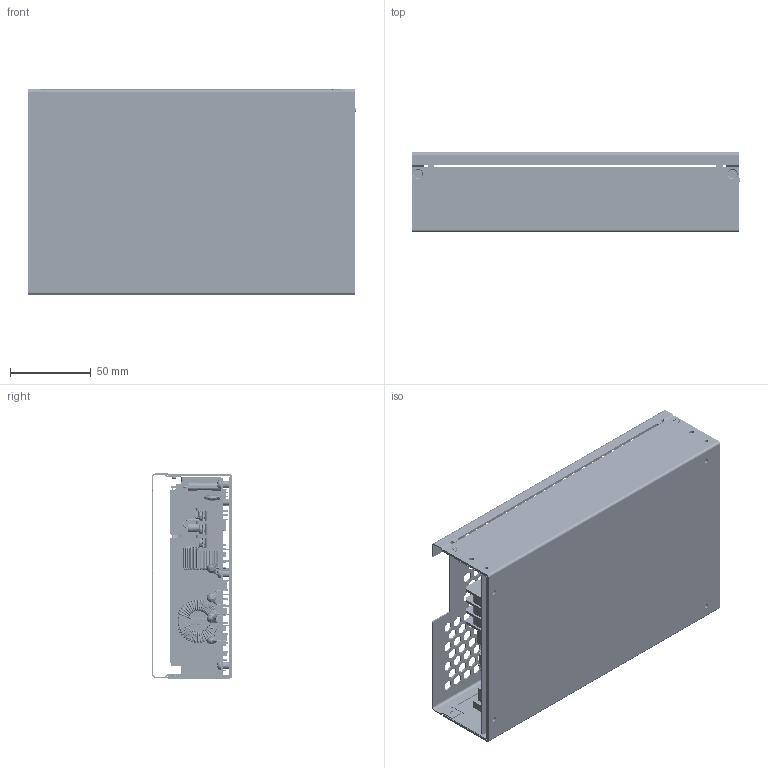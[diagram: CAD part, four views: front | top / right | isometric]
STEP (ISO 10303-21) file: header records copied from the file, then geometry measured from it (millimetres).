
FILE_DESCRIPTION (( 'STEP AP214' ), '1' );
FILE_NAME ('UCH750-C.STEP', '2026-07-28T08:40:34', ( '' ), ( '' ), 'SwSTEP 2.0', 'SolidWorks 2024', '' );
FILE_SCHEMA (( 'AUTOMOTIVE_DESIGN' ));
Length unit declared in the file: millimetre
Products named in the file (58): R53S10-7050; 25x20; 48F11-0003-RT1; 86K139N60W  Q15,16; R89D03-0711; 86K125A60X-2; r53s10-7030 -2; 25170-7310; R36BA36-003  6P; R55MB7-509N; 86K125A60X; 7CD4701011 (6.3x11); Y1 cap; r36ba33002 3P; 25170-7280; 37a03-0010  02; E346160; UCH600 _p_O___X__; UCH750 PCB; r53s10-7070; P820-W; 86K139N60W  Q15,16-0; 25170-7300; I 3x5 ISOTW; 25170-7290; 29720-0190 LED _y; R51F31-1031-F1,2; r53s10-7030 -1; LS1; 85U7X600P1; RV1; UCH750-C 1; r53s10-7030; r56m93-6221; 728370681L 5x11; UCH750 13x30; _p_O; P 3x5 ISOTW (2); R2 FSQM; PCB-2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
Assembly tree (92 placements, depth 4):
  UCH750-C
    UCH750-C 1
      UCH600 _p_O___X__
        _p_O
        R36BA36-003  6P
        830A6069HZ
        r53s10-7070
        728370681L 5x11  x2
        728370681L 680U16v(8x16) CAP
        R55MB7-509N
        r3140107027-3P
        29720-0190 LED _y
        8103112015 LED
        r36ba33002 3P
      37a02-0010
        37a03-0010  02
        37a03-0010 01  x3
      r53s10-7030  x2
        r53s10-7030 -2
        r53s10-7030 -1
      UCH750 PCB
      P820-W  x4
      R9025400010
      20300-2780
      25170-7280
      25170-7300
      25170-7310
      25170-7290
      E346160  x2
      7c9f705612g  30x50
      R89D03-0711
      R53S10-7050
      R55MX3-0321
      r56m93-6221
      R56MM3-2031
      17.5x16-2  x3
      25x20  x2
      UCH750 13x30  x7
      7CD4701011 (6.3x11)  x2
      RV1
      LS1
      R2 FSQM
      86K139N60W  Q15,16
      86K139N60W  Q15,16-0
      85U7X600P1
      85U7X600P1-1
      86K125A60X
      86K125A60X-2
      R51F31-1031-F1,2  x2
      Y1 cap  x4
      PCB-2
      I 3x5 ISOTW  x6
      P2.6x4 ISONI  x2
      48F11-0003-RT1
      R51F68-2022  F1
      P 3x5 ISOTW (2)  x5
      TOP
      F 3x3ISONI  x4
Bounding box: 204.1 x 49.8 x 127.35 mm (x, y, z)
Volume: 397151.1 mm3; surface area: 427177.4 mm2
Topology: 143 solids, 221 shells, 8721 faces, 22259 edges, 13931 vertices
Faces by surface type: plane 4826, cylinder 2018, bspline 877, torus 841, cone 87, sphere 72
Entity records: 252851 total; most frequent: CARTESIAN_POINT 99047, ORIENTED_EDGE 34438, DIRECTION 25564, EDGE_CURVE 17235, VERTEX_POINT 10826, LINE 10252, VECTOR 10252, AXIS2_PLACEMENT_3D 7656
